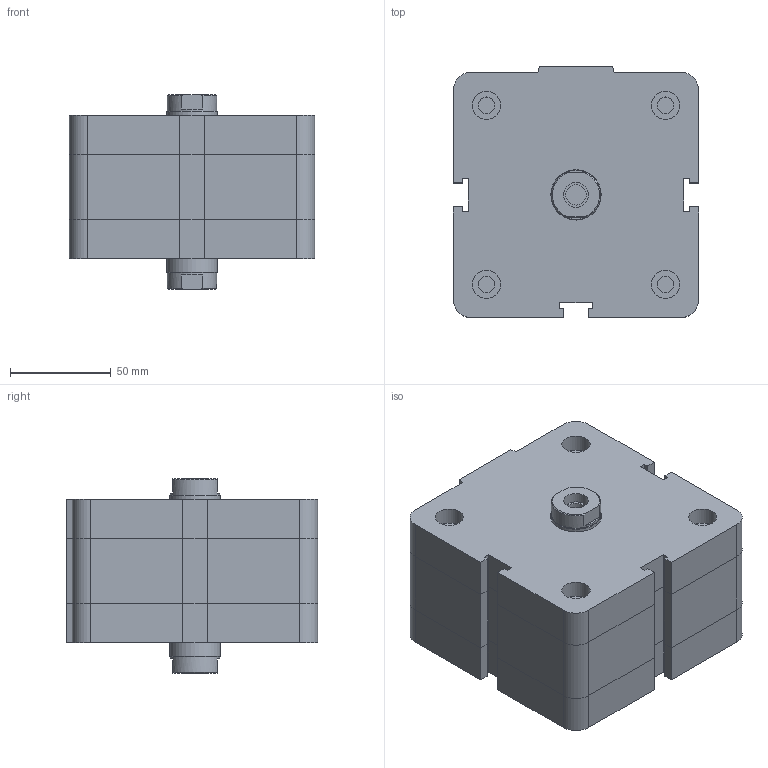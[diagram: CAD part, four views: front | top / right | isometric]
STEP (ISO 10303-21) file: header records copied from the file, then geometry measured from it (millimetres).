
FILE_DESCRIPTION((''),'2;1');
FILE_NAME('I:\Area Tecnica\Disegni\VARIE-3D\Componenti\EUROPE\15##_###_####_03_#\1561_100_0005_03_1.iam.stp','2009-04-20T14:34:16',(''),(''),'Autodesk Inventor 2009','Autodesk Inventor 2009','');
FILE_SCHEMA(('AUTOMOTIVE_DESIGN { 1 0 10303 214 1 1 1 1 }'));
Length unit declared in the file: millimetre
Products named in the file (3): 1561_100_0005_03_1; 1561_100_0005_03_1_C; 1561_100_0005_03_1_S
Assembly tree (2 placements, depth 2):
  1561_100_0005_03_1
    1561_100_0005_03_1_C
    1561_100_0005_03_1_S
Bounding box: 122 x 125 x 96.5 mm (x, y, z)
Volume: 1034135.3 mm3; surface area: 89738.9 mm2
Topology: 2 solids, 2 shells, 174 faces, 379 edges, 231 vertices
Faces by surface type: plane 114, bspline 29, cylinder 25, cone 6
Full cylindrical faces by diameter (mm): 8.376 x4, 10.106 x1, 12.3 x1, 14 x4, 24.5 x2, 25 x1
Entity records: 4758 total; most frequent: CARTESIAN_POINT 1020, DIRECTION 708, ORIENTED_EDGE 676, EDGE_CURVE 338, VECTOR 252, LINE 252, AXIS2_PLACEMENT_3D 228, EDGE_LOOP 226
